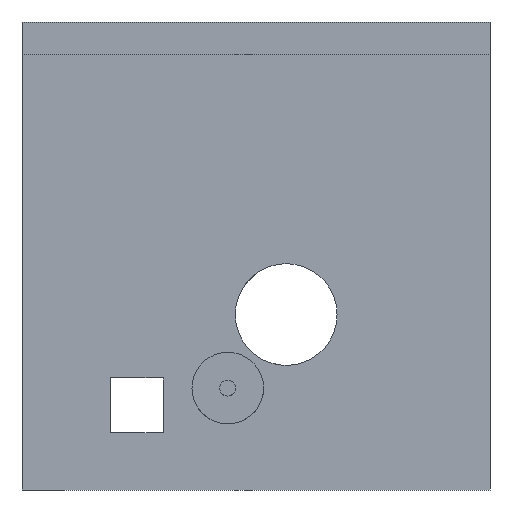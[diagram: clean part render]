
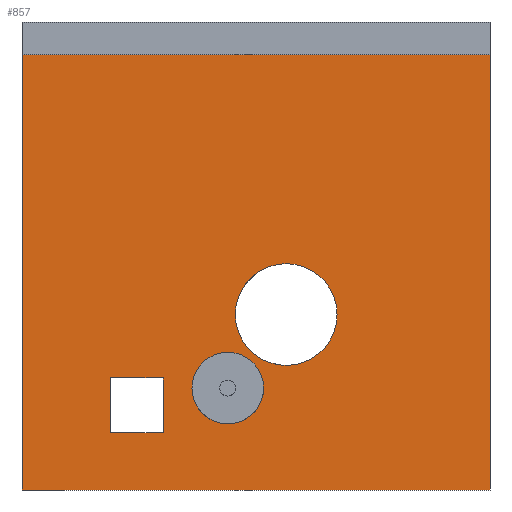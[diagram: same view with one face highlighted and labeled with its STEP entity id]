
A CAD part, front view. The second image highlights one B-rep face of the part: STEP entity #857.
In plain terms, the highlighted planar face has unit normal (0, -1, 0).
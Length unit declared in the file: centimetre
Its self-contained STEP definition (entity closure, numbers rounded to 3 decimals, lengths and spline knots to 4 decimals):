
#24 = VECTOR ( 'NONE', #1990, 100. ) ;
#51 = ORIENTED_EDGE ( 'NONE', *, *, #1682, .T. ) ;
#61 = LINE ( 'NONE', #1841, #1656 ) ;
#62 = ORIENTED_EDGE ( 'NONE', *, *, #508, .T. ) ;
#65 = VECTOR ( 'NONE', #354, 100. ) ;
#85 = DIRECTION ( 'NONE',  ( 0., 0., -1. ) ) ;
#110 = EDGE_CURVE ( 'NONE', #1869, #1985, #61, .T. ) ;
#171 = LINE ( 'NONE', #1803, #65 ) ;
#194 = CARTESIAN_POINT ( 'NONE',  ( 564.4888, 0., 374.8785 ) ) ;
#214 = EDGE_LOOP ( 'NONE', ( #973, #1095, #285, #1697 ) ) ;
#217 = VERTEX_POINT ( 'NONE', #365 ) ;
#227 = DIRECTION ( 'NONE',  ( 0., 0., -1. ) ) ;
#278 = VERTEX_POINT ( 'NONE', #837 ) ;
#285 = ORIENTED_EDGE ( 'NONE', *, *, #1626, .T. ) ;
#326 = VECTOR ( 'NONE', #563, 100. ) ;
#354 = DIRECTION ( 'NONE',  ( -1., 0., 0. ) ) ;
#355 = CARTESIAN_POINT ( 'NONE',  ( 0., 0., 0. ) ) ;
#365 = CARTESIAN_POINT ( 'NONE',  ( 439.6942, 0., 294.2575 ) ) ;
#393 = EDGE_CURVE ( 'NONE', #1869, #2098, #171, .T. ) ;
#394 = DIRECTION ( 'NONE',  ( 0., 0., -1. ) ) ;
#402 = CARTESIAN_POINT ( 'NONE',  ( 439.6942, 0., 217.778 ) ) ;
#404 = CARTESIAN_POINT ( 'NONE',  ( 0., 0., 1000. ) ) ;
#414 = DIRECTION ( 'NONE',  ( 0., 1., 0. ) ) ;
#434 = FACE_BOUND ( 'NONE', #2011, .T. ) ;
#445 = LINE ( 'NONE', #1363, #326 ) ;
#471 = EDGE_LOOP ( 'NONE', ( #1254, #1848 ) ) ;
#478 = ORIENTED_EDGE ( 'NONE', *, *, #2099, .F. ) ;
#504 = CARTESIAN_POINT ( 'NONE',  ( 188.9369, 0., 239.3673 ) ) ;
#505 = VERTEX_POINT ( 'NONE', #1882 ) ;
#508 = EDGE_CURVE ( 'NONE', #560, #505, #445, .T. ) ;
#535 = CARTESIAN_POINT ( 'NONE',  ( 301.9174, 0., 239.3673 ) ) ;
#539 = CARTESIAN_POINT ( 'NONE',  ( 1000., 0., 0. ) ) ;
#560 = VERTEX_POINT ( 'NONE', #630 ) ;
#563 = DIRECTION ( 'NONE',  ( -1., 0., 0. ) ) ;
#580 = EDGE_CURVE ( 'NONE', #278, #1588, #1399, .T. ) ;
#618 = CARTESIAN_POINT ( 'NONE',  ( 564.4888, 0., 266.1281 ) ) ;
#630 = CARTESIAN_POINT ( 'NONE',  ( 301.9174, 0., 122.1456 ) ) ;
#722 = DIRECTION ( 'NONE',  ( 0., -1., 0. ) ) ;
#744 = DIRECTION ( 'NONE',  ( 0., -1., 0. ) ) ;
#791 = CARTESIAN_POINT ( 'NONE',  ( 188.9369, 0., 239.3673 ) ) ;
#796 = ORIENTED_EDGE ( 'NONE', *, *, #886, .F. ) ;
#837 = CARTESIAN_POINT ( 'NONE',  ( 564.4888, 0., 483.629 ) ) ;
#857 = ADVANCED_FACE ( 'NONE', ( #434, #1038, #1563, #1216 ), #1227, .F. ) ;
#861 = VERTEX_POINT ( 'NONE', #2012 ) ;
#886 = EDGE_CURVE ( 'NONE', #217, #861, #1057, .T. ) ;
#930 = ORIENTED_EDGE ( 'NONE', *, *, #1012, .T. ) ;
#939 = AXIS2_PLACEMENT_3D ( 'NONE', #194, #1327, #1994 ) ;
#973 = ORIENTED_EDGE ( 'NONE', *, *, #110, .F. ) ;
#1012 = EDGE_CURVE ( 'NONE', #1157, #1547, #1760, .T. ) ;
#1038 = FACE_BOUND ( 'NONE', #1536, .T. ) ;
#1057 = CIRCLE ( 'NONE', #1156, 76.4795 ) ;
#1063 = CARTESIAN_POINT ( 'NONE',  ( 439.6942, 0., 217.778 ) ) ;
#1072 = CARTESIAN_POINT ( 'NONE',  ( 0., 0., 1000. ) ) ;
#1090 = VECTOR ( 'NONE', #1878, 100. ) ;
#1095 = ORIENTED_EDGE ( 'NONE', *, *, #393, .T. ) ;
#1155 = AXIS2_PLACEMENT_3D ( 'NONE', #1072, #414, #1724 ) ;
#1156 = AXIS2_PLACEMENT_3D ( 'NONE', #1063, #722, #1367 ) ;
#1157 = VERTEX_POINT ( 'NONE', #504 ) ;
#1178 = EDGE_CURVE ( 'NONE', #1588, #278, #1967, .T. ) ;
#1216 = FACE_OUTER_BOUND ( 'NONE', #214, .T. ) ;
#1218 = LINE ( 'NONE', #1727, #1090 ) ;
#1227 = PLANE ( 'NONE',  #1155 ) ;
#1254 = ORIENTED_EDGE ( 'NONE', *, *, #580, .T. ) ;
#1284 = CIRCLE ( 'NONE', #1545, 76.4795 ) ;
#1285 = ORIENTED_EDGE ( 'NONE', *, *, #1615, .T. ) ;
#1294 = VECTOR ( 'NONE', #85, 100. ) ;
#1322 = CARTESIAN_POINT ( 'NONE',  ( 1000., 0., 930.3157 ) ) ;
#1327 = DIRECTION ( 'NONE',  ( 0., 1., 0. ) ) ;
#1363 = CARTESIAN_POINT ( 'NONE',  ( 188.9369, 0., 122.1456 ) ) ;
#1367 = DIRECTION ( 'NONE',  ( 0., 0., -1. ) ) ;
#1399 = CIRCLE ( 'NONE', #1667, 108.7505 ) ;
#1404 = CARTESIAN_POINT ( 'NONE',  ( 301.9174, 0., 122.1456 ) ) ;
#1421 = DIRECTION ( 'NONE',  ( 0., 1., 0. ) ) ;
#1492 = LINE ( 'NONE', #1964, #24 ) ;
#1536 = EDGE_LOOP ( 'NONE', ( #62, #51, #930, #1285 ) ) ;
#1539 = EDGE_CURVE ( 'NONE', #1893, #1985, #1492, .T. ) ;
#1545 = AXIS2_PLACEMENT_3D ( 'NONE', #402, #744, #227 ) ;
#1547 = VERTEX_POINT ( 'NONE', #535 ) ;
#1552 = LINE ( 'NONE', #1404, #1294 ) ;
#1563 = FACE_BOUND ( 'NONE', #471, .T. ) ;
#1566 = DIRECTION ( 'NONE',  ( 0., 0., -1. ) ) ;
#1588 = VERTEX_POINT ( 'NONE', #618 ) ;
#1615 = EDGE_CURVE ( 'NONE', #1547, #560, #1552, .T. ) ;
#1625 = VECTOR ( 'NONE', #1747, 100. ) ;
#1626 = EDGE_CURVE ( 'NONE', #2098, #1893, #2050, .T. ) ;
#1656 = VECTOR ( 'NONE', #394, 100. ) ;
#1667 = AXIS2_PLACEMENT_3D ( 'NONE', #1766, #1421, #1907 ) ;
#1676 = CARTESIAN_POINT ( 'NONE',  ( 0., 0., 930.3157 ) ) ;
#1682 = EDGE_CURVE ( 'NONE', #505, #1157, #1218, .T. ) ;
#1697 = ORIENTED_EDGE ( 'NONE', *, *, #1539, .T. ) ;
#1724 = DIRECTION ( 'NONE',  ( 0., 0., 1. ) ) ;
#1727 = CARTESIAN_POINT ( 'NONE',  ( 188.9369, 0., 122.1456 ) ) ;
#1747 = DIRECTION ( 'NONE',  ( 1., 0., 0. ) ) ;
#1760 = LINE ( 'NONE', #791, #1625 ) ;
#1766 = CARTESIAN_POINT ( 'NONE',  ( 564.4888, 0., 374.8785 ) ) ;
#1803 = CARTESIAN_POINT ( 'NONE',  ( 1000., 0., 930.3157 ) ) ;
#1841 = CARTESIAN_POINT ( 'NONE',  ( 1000., 0., 1000. ) ) ;
#1848 = ORIENTED_EDGE ( 'NONE', *, *, #1178, .T. ) ;
#1869 = VERTEX_POINT ( 'NONE', #1322 ) ;
#1878 = DIRECTION ( 'NONE',  ( 0., 0., 1. ) ) ;
#1882 = CARTESIAN_POINT ( 'NONE',  ( 188.9369, 0., 122.1456 ) ) ;
#1893 = VERTEX_POINT ( 'NONE', #355 ) ;
#1907 = DIRECTION ( 'NONE',  ( 0., 0., 1. ) ) ;
#1964 = CARTESIAN_POINT ( 'NONE',  ( 0., 0., 0. ) ) ;
#1967 = CIRCLE ( 'NONE', #939, 108.7505 ) ;
#1985 = VERTEX_POINT ( 'NONE', #539 ) ;
#1990 = DIRECTION ( 'NONE',  ( 1., 0., 0. ) ) ;
#1994 = DIRECTION ( 'NONE',  ( 0., 0., 1. ) ) ;
#2006 = VECTOR ( 'NONE', #1566, 100. ) ;
#2011 = EDGE_LOOP ( 'NONE', ( #478, #796 ) ) ;
#2012 = CARTESIAN_POINT ( 'NONE',  ( 439.6942, 0., 141.2985 ) ) ;
#2050 = LINE ( 'NONE', #404, #2006 ) ;
#2098 = VERTEX_POINT ( 'NONE', #1676 ) ;
#2099 = EDGE_CURVE ( 'NONE', #861, #217, #1284, .T. ) ;
